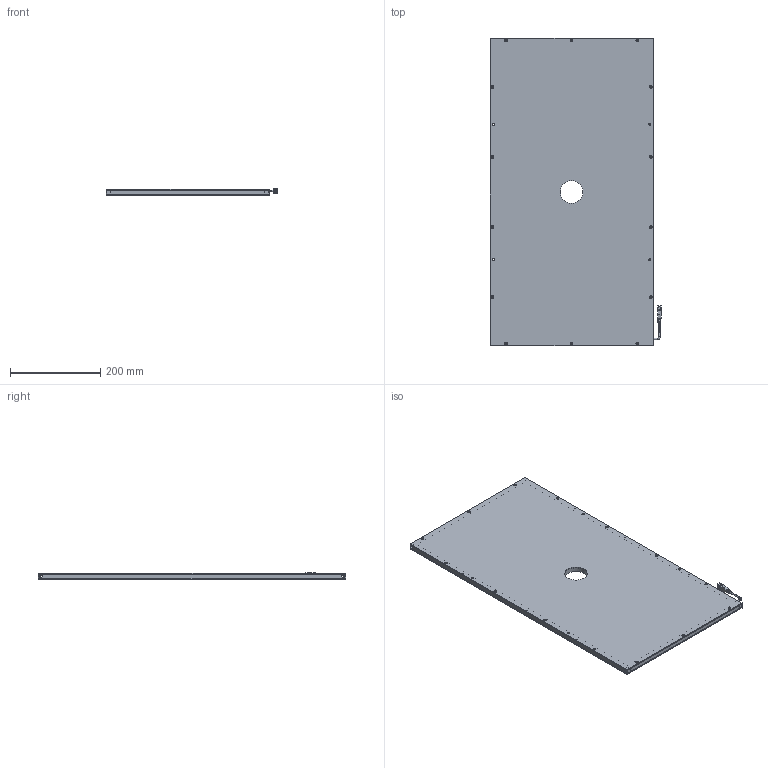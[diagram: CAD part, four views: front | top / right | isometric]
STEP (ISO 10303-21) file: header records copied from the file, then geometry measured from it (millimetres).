
FILE_DESCRIPTION (( 'STEP AP203' ), '1' );
FILE_NAME ('CRT-KFLC640320Y50-¼òÒ×3DÍ¼.STEP', '2021-11-30T03:08:35', ( 'Admin' ), ( '' ), 'SwSTEP 2.0', 'SolidWorks 2018', '' );
FILE_SCHEMA (( 'CONFIG_CONTROL_DESIGN' ));
Length unit declared in the file: millimetre
Products named in the file (1): CRT-KFLC640320Y50-潠眢3D芞
Bounding box: 379.45 x 680 x 14.85 mm (x, y, z)
Surface area: 800638.6 mm2 (no closed solid volume)
Topology: 0 solids, 20 shells, 244 faces, 883 edges, 641 vertices
Faces by surface type: plane 107, cylinder 98, cone 34, bspline 5
Entity records: 10293 total; most frequent: CARTESIAN_POINT 2636, DIRECTION 1621, ORIENTED_EDGE 1336, EDGE_CURVE 883, VERTEX_POINT 641, AXIS2_PLACEMENT_3D 559, LINE 503, VECTOR 503
